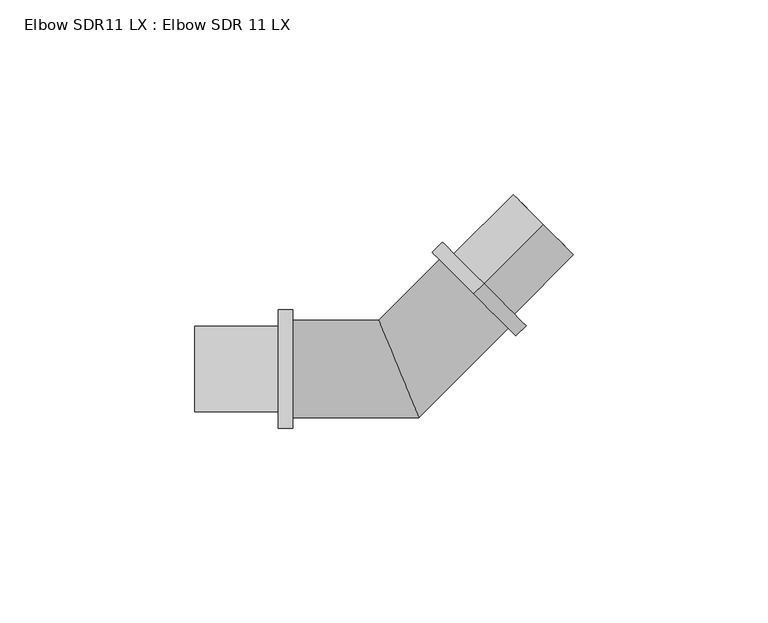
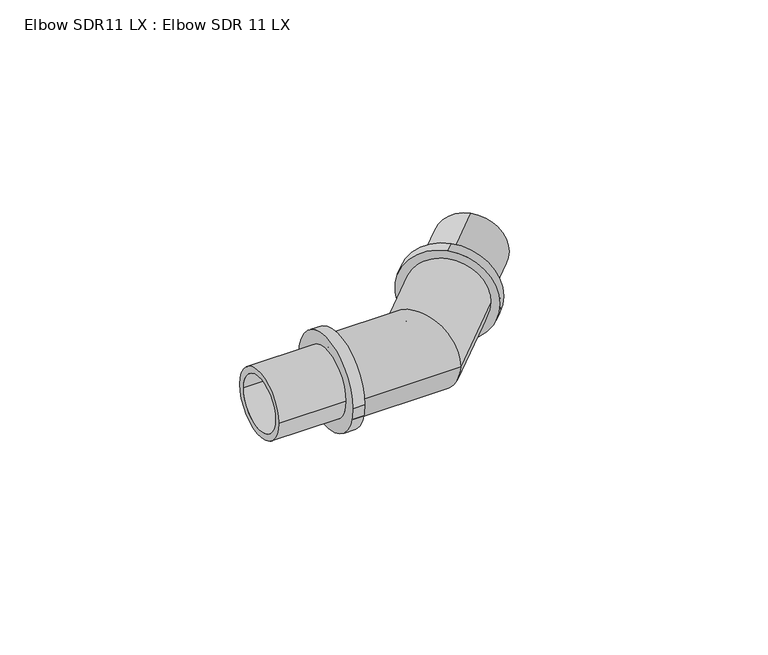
"""IFC4 building model written with IfcOpenShell, lengths in millimetres: pipe fitting geometry, Elbow SDR11 LX : Elbow SDR 11 LX."""

from ifc_helpers import new_model, si_unit, frame, origin, place, context, project, spatial, polyline, circle_curve, ellipse_curve, source, transform, mapped, element, save
from ifc_brep_helpers import plane_surface, cylinder_surface, revolved_surface, advanced_brep


def elbow_sdr11_lx_elbow_sdr_11_lx_81e20379(model_context):
    return source(origin(), model_context, "Body", "AdvancedBrep", [
        advanced_brep(
        [(-27.3, -12.5, 0.0), (-27.3, 12.5, 0.0), (-27.3, -8.9, 0.0), (-27.3, 8.9, 0.0), (5.1776695, -12.5, 0.0), (-5.1776695, 12.5, 0.0), (3.6865007, -8.9, 0.0), (-3.6865007, 8.9, 0.0), (28.1428499, 10.4651804, 0.0), (10.4651804, 28.1428499, 0.0), (25.5972655, 13.0107648, 0.0), (13.0107648, 25.5972655, 0.0)],
        [
            (0, 1, circle_curve(frame((-27.3, 0.0, 0.0), z_axis=(-1.0, 0.0, 0.0), x_axis=(0.0, 1.0, 0.0)), 12.5)),
            (1, 0, circle_curve(frame((-27.3, 0.0, 0.0), z_axis=(-1.0, 0.0, 0.0), x_axis=(0.0, 1.0, 0.0)), 12.5)),
            (2, 3, circle_curve(frame((-27.3, 0.0, 0.0), z_axis=(1.0, 0.0, 0.0), x_axis=(0.0, 1.0, 0.0)), 8.9)),
            (3, 2, circle_curve(frame((-27.3, 0.0, 0.0), z_axis=(1.0, 0.0, 0.0), x_axis=(0.0, 1.0, 0.0)), 8.9)),
            (0, 4),
            (4, 5, ellipse_curve(frame((0.0, 0.0, 0.0), z_axis=(-0.923879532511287, -0.38268343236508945, 0.0), x_axis=(-0.38268343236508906, 0.9238795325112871, 0.0)), 13.5299025, 12.5)),
            (5, 1),
            (5, 4, ellipse_curve(frame((0.0, 0.0, 0.0), z_axis=(-0.923879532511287, -0.38268343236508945, 0.0), x_axis=(-0.38268343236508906, 0.9238795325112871, 0.0)), 13.5299025, 12.5)),
            (2, 6),
            (6, 7, ellipse_curve(frame((0.0, 0.0, 0.0), z_axis=(0.923879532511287, 0.38268343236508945, 0.0), x_axis=(0.38268343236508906, -0.9238795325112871, 0.0)), 9.6332906, 8.9)),
            (7, 3),
            (7, 6, ellipse_curve(frame((0.0, 0.0, 0.0), z_axis=(0.923879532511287, 0.38268343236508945, 0.0), x_axis=(0.38268343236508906, -0.9238795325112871, 0.0)), 9.6332906, 8.9)),
            (8, 9, circle_curve(frame((19.3040151, 19.3040151, 0.0), z_axis=(0.7071067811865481, 0.707106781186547, 0.0), x_axis=(-0.707106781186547, 0.7071067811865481, 0.0)), 12.5)),
            (9, 8, circle_curve(frame((19.3040151, 19.3040151, 0.0), z_axis=(0.7071067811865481, 0.707106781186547, 0.0), x_axis=(-0.707106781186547, 0.7071067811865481, 0.0)), 12.5)),
            (10, 11, circle_curve(frame((19.3040151, 19.3040151, 0.0), z_axis=(-0.7071067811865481, -0.707106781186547, 0.0), x_axis=(-0.707106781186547, 0.7071067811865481, 0.0)), 8.9)),
            (11, 10, circle_curve(frame((19.3040151, 19.3040151, 0.0), z_axis=(-0.7071067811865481, -0.707106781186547, 0.0), x_axis=(-0.707106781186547, 0.7071067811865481, 0.0)), 8.9)),
            (4, 8),
            (9, 5),
            (6, 10),
            (11, 7),
        ],
        [
            plane_surface(frame((-27.3, 0.0, 0.0), z_axis=(-1.0, 0.0, 0.0), x_axis=(0.0, 0.0, 1.0))),
            cylinder_surface(frame((-27.3, 0.0, 0.0), z_axis=(-1.0, 0.0, 0.0), x_axis=(0.0, 1.0, 0.0)), 12.5),
            revolved_surface(polyline([(3.686500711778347, 8.9, 0.0), (-27.3, 8.9, 0.0)]), (-27.3, 0.0, 0.0), (1.0, 0.0, 0.0)),
            plane_surface(frame((19.3040151, 19.3040151, 0.0), z_axis=(0.7071067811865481, 0.707106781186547, 0.0), x_axis=(0.0, 0.0, 1.0))),
            cylinder_surface(frame((0.0, 0.0, 0.0), z_axis=(-0.7071067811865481, -0.707106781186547, 0.0), x_axis=(-0.707106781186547, 0.7071067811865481, 0.0)), 12.5),
            revolved_surface(polyline([(13.010764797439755, 25.59726550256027, 0.0), (-8.900000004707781, 3.6865007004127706, 0.0)]), (0.0, 0.0, 0.0), (0.7071067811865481, 0.707106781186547, 0.0)),
        ],
        [
            (0, [[1, 2], [3, 4]]),
            (1, [[-1, 5, 6, 7]]),
            (1, [[-2, -7, 8, -5]]),
            (2, [[-3, 9, 10, 11]]),
            (2, [[-4, -11, 12, -9]]),
            (3, [[13, 14], [15, 16]]),
            (4, [[-6, 17, -14, 18]]),
            (4, [[-8, -18, -13, -17]]),
            (5, [[-10, 19, -16, 20]]),
            (5, [[-12, -20, -15, -19]]),
        ],
    ),
        advanced_brep(
        [(37.123106, 37.123106, 8.9), (37.123106, 37.123106, -8.9), (19.3040151, 19.3040151, -8.9), (19.3040151, 19.3040151, 8.9), (21.9203102, 21.9203102, 11.0), (21.9203102, 21.9203102, -11.0), (37.123106, 37.123106, -11.0), (37.123106, 37.123106, 11.0), (19.3040151, 19.3040151, 15.25), (19.3040151, 19.3040151, -15.25), (21.9203102, 21.9203102, -15.25), (21.9203102, 21.9203102, 15.25)],
        [
            (0, 1, circle_curve(frame((37.123106, 37.123106, 0.0), z_axis=(0.7071067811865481, 0.707106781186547, 0.0), x_axis=(0.0, 0.0, -1.0)), 8.9)),
            (1, 2),
            (2, 3, circle_curve(frame((19.3040151, 19.3040151, 0.0), z_axis=(-0.7071067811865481, -0.707106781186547, 0.0), x_axis=(0.0, 0.0, -1.0)), 8.9)),
            (3, 0),
            (4, 5, circle_curve(frame((21.9203102, 21.9203102, 0.0), z_axis=(0.7071067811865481, 0.707106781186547, 0.0), x_axis=(0.0, 0.0, -1.0)), 11.0)),
            (5, 6),
            (6, 7, circle_curve(frame((37.123106, 37.123106, 0.0), z_axis=(-0.7071067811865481, -0.707106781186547, 0.0), x_axis=(0.0, 0.0, -1.0)), 11.0)),
            (7, 4),
            (8, 9, circle_curve(frame((19.3040151, 19.3040151, 0.0), z_axis=(0.7071067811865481, 0.707106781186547, 0.0), x_axis=(0.0, 0.0, -1.0)), 15.25)),
            (9, 10),
            (10, 11, circle_curve(frame((21.9203102, 21.9203102, 0.0), z_axis=(-0.7071067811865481, -0.707106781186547, 0.0), x_axis=(0.0, 0.0, -1.0)), 15.25)),
            (11, 8),
            (1, 0, circle_curve(frame((37.123106, 37.123106, 0.0), z_axis=(0.7071067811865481, 0.707106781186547, 0.0), x_axis=(0.0, 0.0, 1.0)), 8.9)),
            (3, 2, circle_curve(frame((19.3040151, 19.3040151, 0.0), z_axis=(-0.7071067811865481, -0.707106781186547, 0.0), x_axis=(0.0, 0.0, 1.0)), 8.9)),
            (6, 7, circle_curve(frame((37.123106, 37.123106, 0.0), z_axis=(0.7071067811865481, 0.707106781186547, 0.0), x_axis=(0.0, 0.0, 1.0)), 11.0)),
            (5, 4, circle_curve(frame((21.9203102, 21.9203102, 0.0), z_axis=(0.7071067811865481, 0.707106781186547, 0.0), x_axis=(0.0, 0.0, 1.0)), 11.0)),
            (10, 11, circle_curve(frame((21.9203102, 21.9203102, 0.0), z_axis=(0.7071067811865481, 0.707106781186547, 0.0), x_axis=(0.0, 0.0, 1.0)), 15.25)),
            (9, 8, circle_curve(frame((19.3040151, 19.3040151, 0.0), z_axis=(0.7071067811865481, 0.707106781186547, 0.0), x_axis=(0.0, 0.0, 1.0)), 15.25)),
        ],
        [
            revolved_surface(polyline([(19.30401510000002, 19.304015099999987, -8.9), (37.123106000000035, 37.12310599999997, -8.9)]), (0.0, 0.0, 0.0), (-0.7071067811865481, -0.707106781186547, 0.0)),
            cylinder_surface(frame((0.0, 0.0, 0.0), z_axis=(-0.7071067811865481, -0.707106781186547, 0.0), x_axis=(0.0, 0.0, -1.0)), 11.0),
            cylinder_surface(frame((0.0, 0.0, 0.0), z_axis=(-0.7071067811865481, -0.707106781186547, 0.0), x_axis=(0.0, 0.0, -1.0)), 15.25),
            revolved_surface(polyline([(19.30401510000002, 19.304015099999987, 8.9), (37.123106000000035, 37.12310599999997, 8.9)]), (0.0, 0.0, 0.0), (-0.7071067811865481, -0.707106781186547, 0.0)),
            plane_surface(frame((37.123106, 37.123106, 0.0), z_axis=(0.7071067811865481, 0.707106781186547, 0.0), x_axis=(0.0, 0.0, 1.0))),
            cylinder_surface(frame((0.0, 0.0, 0.0), z_axis=(-0.7071067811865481, -0.707106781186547, 0.0), x_axis=(0.0, 0.0, 1.0)), 11.0),
            plane_surface(frame((21.9203102, 21.9203102, 0.0), z_axis=(0.7071067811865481, 0.707106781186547, 0.0), x_axis=(0.0, 0.0, 1.0))),
            cylinder_surface(frame((0.0, 0.0, 0.0), z_axis=(-0.7071067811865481, -0.707106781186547, 0.0), x_axis=(0.0, 0.0, 1.0)), 15.25),
            plane_surface(frame((19.3040151, 19.3040151, 0.0), z_axis=(-0.7071067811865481, -0.707106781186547, 0.0), x_axis=(0.0, 0.0, 1.0))),
        ],
        [
            (0, [[1, 2, 3, 4]]),
            (1, [[5, 6, 7, 8]]),
            (2, [[9, 10, 11, 12]]),
            (3, [[13, -4, 14, -2]]),
            (4, [[15, -7], [-13, -1]]),
            (5, [[16, -8, -15, -6]]),
            (6, [[17, -11], [-16, -5]]),
            (7, [[18, -12, -17, -10]]),
            (8, [[-18, -9], [-14, -3]]),
        ],
    ),
        advanced_brep(
        [(-27.3, 15.25, 0.0), (-27.3, -15.25, 0.0), (-31.0, -15.25, 0.0), (-31.0, 15.25, 0.0), (-31.0, 11.0, 0.0), (-31.0, -11.0, 0.0), (-52.5, -11.0, 0.0), (-52.5, 11.0, 0.0), (-52.5, 8.9, 0.0), (-52.5, -8.9, 0.0), (-27.3, -8.9, 0.0), (-27.3, 8.9, 0.0)],
        [
            (0, 1, circle_curve(frame((-27.3, 0.0, 0.0), z_axis=(-1.0, 0.0, 0.0), x_axis=(0.0, -1.0, 0.0)), 15.25)),
            (1, 2),
            (2, 3, circle_curve(frame((-31.0, 0.0, 0.0), z_axis=(1.0, 0.0, 0.0), x_axis=(0.0, -1.0, 0.0)), 15.25)),
            (3, 0),
            (4, 5, circle_curve(frame((-31.0, 0.0, 0.0), z_axis=(-1.0, 0.0, 0.0), x_axis=(0.0, -1.0, 0.0)), 11.0)),
            (5, 6),
            (6, 7, circle_curve(frame((-52.5, 0.0, 0.0), z_axis=(1.0, 0.0, 0.0), x_axis=(0.0, -1.0, 0.0)), 11.0)),
            (7, 4),
            (8, 9, circle_curve(frame((-52.5, 0.0, 0.0), z_axis=(-1.0, 0.0, 0.0), x_axis=(0.0, -1.0, 0.0)), 8.9)),
            (9, 10),
            (10, 11, circle_curve(frame((-27.3, 0.0, 0.0), z_axis=(1.0, 0.0, 0.0), x_axis=(0.0, -1.0, 0.0)), 8.9)),
            (11, 8),
            (0, 1, circle_curve(frame((-27.3, 0.0, 0.0), z_axis=(1.0, 0.0, 0.0), x_axis=(0.0, 1.0, 0.0)), 15.25)),
            (10, 11, circle_curve(frame((-27.3, 0.0, 0.0), z_axis=(-1.0, 0.0, 0.0), x_axis=(0.0, 1.0, 0.0)), 8.9)),
            (3, 2, circle_curve(frame((-31.0, 0.0, 0.0), z_axis=(1.0, 0.0, 0.0), x_axis=(0.0, 1.0, 0.0)), 15.25)),
            (4, 5, circle_curve(frame((-31.0, 0.0, 0.0), z_axis=(1.0, 0.0, 0.0), x_axis=(0.0, 1.0, 0.0)), 11.0)),
            (7, 6, circle_curve(frame((-52.5, 0.0, 0.0), z_axis=(1.0, 0.0, 0.0), x_axis=(0.0, 1.0, 0.0)), 11.0)),
            (8, 9, circle_curve(frame((-52.5, 0.0, 0.0), z_axis=(1.0, 0.0, 0.0), x_axis=(0.0, 1.0, 0.0)), 8.9)),
        ],
        [
            cylinder_surface(frame((0.0, 0.0, 0.0), z_axis=(1.0, 0.0, 0.0), x_axis=(0.0, -1.0, 0.0)), 15.25),
            cylinder_surface(frame((0.0, 0.0, 0.0), z_axis=(1.0, 0.0, 0.0), x_axis=(0.0, -1.0, 0.0)), 11.0),
            revolved_surface(polyline([(-27.3, -8.9, 0.0), (-52.5, -8.9, 0.0)]), (0.0, 0.0, 0.0), (1.0, 0.0, 0.0)),
            plane_surface(frame((-27.3, 0.0, 0.0), z_axis=(1.0, 0.0, 0.0), x_axis=(0.0, 1.0, 0.0))),
            cylinder_surface(frame((0.0, 0.0, 0.0), z_axis=(1.0, 0.0, 0.0), x_axis=(0.0, 1.0, 0.0)), 15.25),
            plane_surface(frame((-31.0, 0.0, 0.0), z_axis=(-1.0, 0.0, 0.0), x_axis=(0.0, 1.0, 0.0))),
            cylinder_surface(frame((0.0, 0.0, 0.0), z_axis=(1.0, 0.0, 0.0), x_axis=(0.0, 1.0, 0.0)), 11.0),
            plane_surface(frame((-52.5, 0.0, 0.0), z_axis=(-1.0, 0.0, 0.0), x_axis=(0.0, 1.0, 0.0))),
            revolved_surface(polyline([(-27.3, 8.9, 0.0), (-52.5, 8.9, 0.0)]), (0.0, 0.0, 0.0), (1.0, 0.0, 0.0)),
        ],
        [
            (0, [[1, 2, 3, 4]]),
            (1, [[5, 6, 7, 8]]),
            (2, [[9, 10, 11, 12]]),
            (3, [[13, -1], [14, -11]]),
            (4, [[-13, -4, 15, -2]]),
            (5, [[-15, -3], [16, -5]]),
            (6, [[-16, -8, 17, -6]]),
            (7, [[-17, -7], [18, -9]]),
            (8, [[-18, -12, -14, -10]]),
        ],
    ),
    ])


if __name__ == "__main__":
    model = new_model("IFC4")
    model_context = context("Model", 3, world=origin())
    ifc_project = project(units=[si_unit("LENGTHUNIT", "METRE", prefix="MILLI")], contexts=[model_context])
    site = spatial("IfcSite", under=ifc_project)
    building = spatial("IfcBuilding", under=site)
    placement = place(None, origin())
    elbow_sdr11_lx_elbow_sdr_11_lx_shape = elbow_sdr11_lx_elbow_sdr_11_lx_81e20379(model_context)
    element("IfcPipeFitting", 1, ObjectType="Elbow SDR11 LX : Elbow SDR 11 LX", at=placement, inside=building, context=model_context, shape_type="MappedRepresentation", body=[
        mapped(elbow_sdr11_lx_elbow_sdr_11_lx_shape, transform((0.0, 0.0, 0.0), x_axis=(1.0, 0.0, 0.0), y_axis=(0.0, 1.0, 0.0), z_axis=(0.0, 0.0, 1.0))),
    ])
    save(model, "model.ifc")
